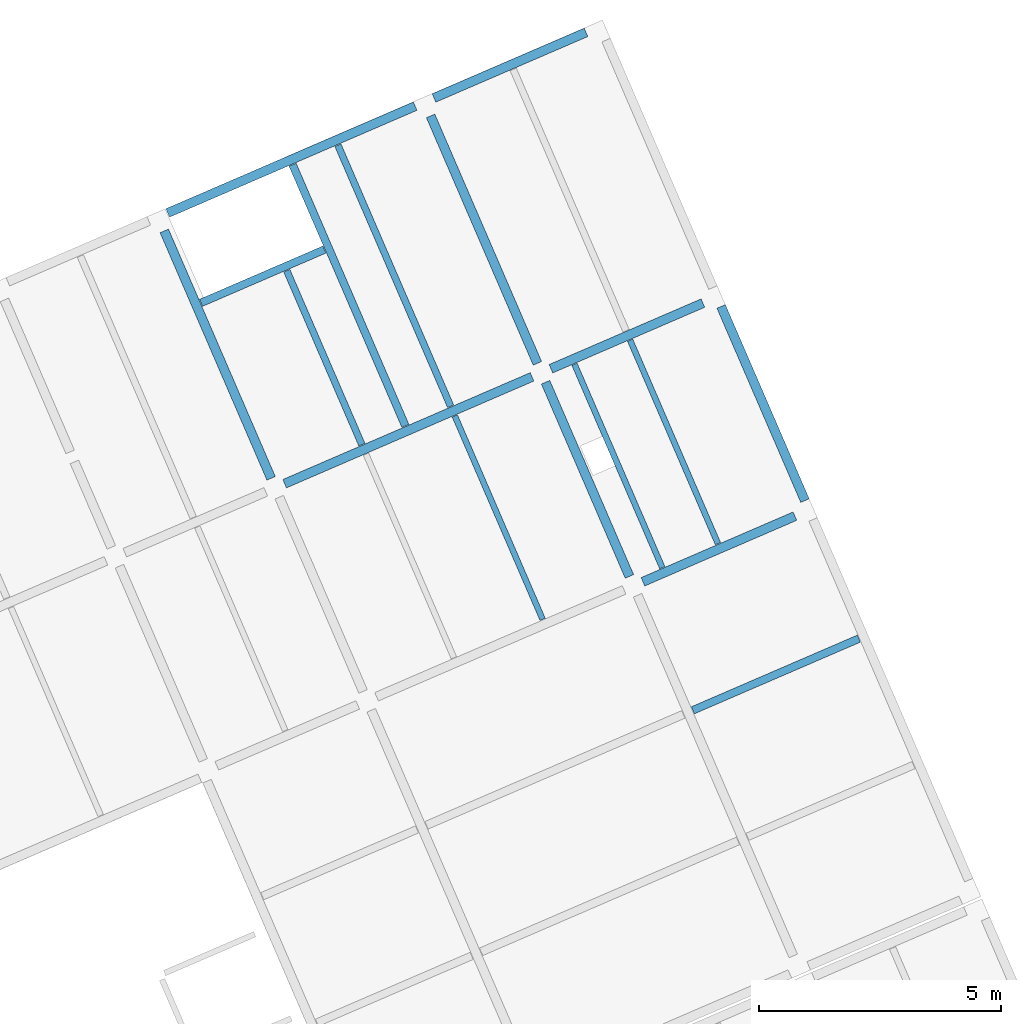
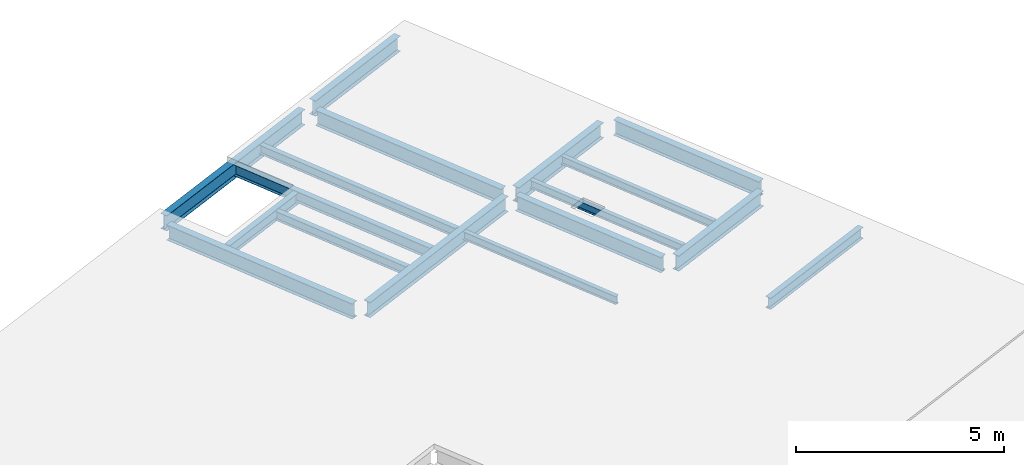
# One storey, part 14 of 15: 17 beams.
"""IFC4 building model written with IfcOpenShell, lengths in metres."""

from ifc_helpers import new_model, entity, si_unit, converted_unit, derived_unit, direction, frame, origin, place, context, subcontext, project, spatial, line, arc, indexed_curve, outline, extrude, source, transform, mapped, material, type_object, type_shapes, element, save


model = new_model("IFC4")

# Units and contexts
model_context = context("Model", 3, precision=1e-05, world=origin(), true_north=direction((6.12323399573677e-17, 1.0)))
body_context = subcontext(model_context, "Body", "Model", "MODEL_VIEW")
ifc_project = project(units=[si_unit("LENGTHUNIT", "METRE"), si_unit("AREAUNIT", "SQUARE_METRE"), si_unit("VOLUMEUNIT", "CUBIC_METRE"), converted_unit("PLANEANGLEUNIT", "DEGREE", entity("IfcPlaneAngleMeasure", 0.0174532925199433), si_unit("PLANEANGLEUNIT", "RADIAN"), dimensions=[0, 0, 0, 0, 0, 0, 0]), si_unit("MASSUNIT", "GRAM", prefix="KILO"), derived_unit("MOMENTOFINERTIAUNIT", [(si_unit("LENGTHUNIT", "METRE"), 4)]), derived_unit("LINEARFORCEUNIT", [(si_unit("MASSUNIT", "GRAM", prefix="KILO"), 1), (si_unit("TIMEUNIT", "SECOND"), -2)]), derived_unit("WARPINGCONSTANTUNIT", [(si_unit("LENGTHUNIT", "METRE"), 6)]), derived_unit("THERMALTRANSMITTANCEUNIT", [(si_unit("MASSUNIT", "GRAM", prefix="KILO"), 1), (si_unit("THERMODYNAMICTEMPERATUREUNIT", "KELVIN"), -1), (si_unit("TIMEUNIT", "SECOND"), -3)]), derived_unit("USERDEFINED", [(si_unit("MASSUNIT", "GRAM", prefix="KILO"), 1), (si_unit("TIMEUNIT", "SECOND"), -2), (si_unit("THERMODYNAMICTEMPERATUREUNIT", "KELVIN"), -1)]), derived_unit("THERMALRESISTANCEUNIT", [(si_unit("MASSUNIT", "GRAM", prefix="KILO"), -1), (si_unit("TIMEUNIT", "SECOND"), 3), (si_unit("THERMODYNAMICTEMPERATUREUNIT", "KELVIN"), 1)])], contexts=[model_context])

# Site, building, storey
site_placement = place(None, origin())
site = spatial("IfcSite", under=ifc_project, at=site_placement, Name="Default", CompositionType="ELEMENT")
building_placement = place(site_placement, frame((12.6613425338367, -82.5732315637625, 317.15), z_axis=(0.0, 0.0, 1.0), x_axis=(-0.396377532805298, 0.918087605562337, 0.0)))
building = spatial("IfcBuilding", under=site, at=building_placement, Name="CESFAM Coyhaique", CompositionType="ELEMENT")
storey_placement = place(building_placement, frame((0.0, 0.0, 8.45000000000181)))
storey = spatial("IfcBuildingStorey", under=building, at=storey_placement, Name="Nivel 3", CompositionType="ELEMENT", Elevation=8.45000000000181)

# Beams
ifc_material = material(Name="Steel, 45-345", Category="Metal")
beam_type_1 = type_object("IfcBeamType", Name="M_W Shapes:W450X190mm", PredefinedType="BEAM", material=ifc_material)
shared_shape_1 = source(origin(), body_context, "Body", "SweptSolid", [
    extrude(outline(indexed_curve([(-0.0949999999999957, -0.225000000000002), (0.0950000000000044, -0.225000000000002), (0.0950000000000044, -0.215350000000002), (0.0105700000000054, -0.215350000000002), (0.00516063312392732, -0.213109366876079), (0.00292000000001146, -0.207700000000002), (0.0029200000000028, 0.207699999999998), (0.00516063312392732, 0.213109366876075), (0.0105700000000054, 0.215349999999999), (0.0950000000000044, 0.215349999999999), (0.0950000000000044, 0.224999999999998), (-0.0949999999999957, 0.224999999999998), (-0.0949999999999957, 0.215349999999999), (-0.0105699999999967, 0.215349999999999), (-0.00516063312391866, 0.213109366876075), (-0.00291999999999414, 0.207699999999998), (-0.00291999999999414, -0.207700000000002), (-0.00516063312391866, -0.213109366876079), (-0.0105699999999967, -0.215350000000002), (-0.0949999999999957, -0.215350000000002)], segments=[line(1, 2, 3, 4), arc(4, 5, 6), line(6, 7), arc(7, 8, 9), line(9, 10, 11, 12, 13, 14), arc(14, 15, 16), line(16, 17), arc(17, 18, 19), line(19, 20, 1)], self_intersect=False)), frame((48.5688534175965, -20.9844495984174, 8.07500000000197), z_axis=(0.0, 1.0, 0.0), x_axis=(-1.0, 0.0, 0.0)), (0.0, 0.0, 1.0), 5.5746),
])
type_shapes(beam_type_1, [shared_shape_1])
beam_1_placement = place(storey_placement, frame((0.0, 0.0, -8.45000000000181)))
element("IfcBeam", 1, at=beam_1_placement, inside=storey, type_object=beam_type_1, Name="M_W Shapes:W450X190mm", ObjectType="M_W Shapes:W450X190mm", PredefinedType="BEAM", context=body_context, shape_type="MappedRepresentation", body=[
    mapped(shared_shape_1, transform((0.0, 0.0, 0.0), scale=1.0)),
])
beam_type_2 = type_object("IfcBeamType", Name="M_W Shapes:W450X190mm", PredefinedType="BEAM", material=ifc_material)
shared_shape_2 = source(origin(), body_context, "Body", "SweptSolid", [
    extrude(outline(indexed_curve([(-0.0950000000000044, -0.225000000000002), (0.0949999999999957, -0.225000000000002), (0.0949999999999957, -0.215350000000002), (0.0105699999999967, -0.215350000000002), (0.00516063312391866, -0.213109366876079), (0.0029200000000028, -0.207700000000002), (0.00291999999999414, 0.207699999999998), (0.00516063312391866, 0.213109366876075), (0.0105699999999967, 0.215349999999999), (0.0949999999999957, 0.215349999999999), (0.0949999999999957, 0.224999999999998), (-0.0950000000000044, 0.224999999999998), (-0.0950000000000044, 0.215349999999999), (-0.0105700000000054, 0.215349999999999), (-0.00516063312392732, 0.213109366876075), (-0.0029200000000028, 0.207699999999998), (-0.0029200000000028, -0.207700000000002), (-0.00516063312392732, -0.213109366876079), (-0.0105700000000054, -0.215350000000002), (-0.0950000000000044, -0.215350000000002)], segments=[line(1, 2, 3, 4), arc(4, 5, 6), line(6, 7), arc(7, 8, 9), line(9, 10, 11, 12, 13, 14), arc(14, 15, 16), line(16, 17), arc(17, 18, 19), line(19, 20, 1)], self_intersect=False)), frame((54.6688534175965, -20.9844495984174, 8.07500000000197), z_axis=(0.0, 1.0, 0.0), x_axis=(-1.0, 0.0, 0.0)), (0.0, 0.0, 1.0), 5.5746),
])
type_shapes(beam_type_2, [shared_shape_2])
beam_2_placement = place(storey_placement, frame((0.0, 0.0, -8.45000000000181)))
element("IfcBeam", 2, at=beam_2_placement, inside=storey, type_object=beam_type_2, Name="M_W Shapes:W450X190mm", ObjectType="M_W Shapes:W450X190mm", PredefinedType="BEAM", context=body_context, shape_type="MappedRepresentation", body=[
    mapped(shared_shape_2, transform((0.0, 0.0, 0.0), scale=1.0)),
])
beam_type_3 = type_object("IfcBeamType", Name="M_W Shapes:W450X190mm", PredefinedType="BEAM", material=ifc_material)
shared_shape_3 = source(origin(), body_context, "Body", "SweptSolid", [
    extrude(outline(indexed_curve([(-0.224999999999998, -0.0949999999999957), (-0.215349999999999, -0.0949999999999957), (-0.215349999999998, -0.0105699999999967), (-0.213109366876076, -0.00516063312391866), (-0.207699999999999, -0.00291999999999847), (0.207700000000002, -0.00291999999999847), (0.21310936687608, -0.00516063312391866), (0.215350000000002, -0.0105699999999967), (0.215350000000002, -0.0949999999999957), (0.225000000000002, -0.0949999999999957), (0.225000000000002, 0.0950000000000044), (0.215350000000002, 0.0950000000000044), (0.215350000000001, 0.0105700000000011), (0.21310936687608, 0.00516063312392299), (0.207700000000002, 0.0029200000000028), (-0.207699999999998, 0.0029200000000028), (-0.213109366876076, 0.00516063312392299), (-0.215349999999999, 0.0105700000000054), (-0.215349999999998, 0.0950000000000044), (-0.224999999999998, 0.0950000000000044)], segments=[line(1, 2, 3), arc(3, 4, 5), line(5, 6), arc(6, 7, 8), line(8, 9, 10, 11, 12, 13), arc(13, 14, 15), line(15, 16), arc(16, 17, 18), line(18, 19, 20, 1)], self_intersect=False)), frame((43.9815534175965, -25.1521495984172, 8.07500000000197), z_axis=(1.0, 0.0, 0.0), x_axis=(0.0, 0.0, -1.0)), (0.0, 0.0, 1.0), 4.3746),
])
type_shapes(beam_type_3, [shared_shape_3])
beam_3_placement = place(storey_placement, frame((0.0, 0.0, -8.45000000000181)))
element("IfcBeam", 3, at=beam_3_placement, inside=storey, type_object=beam_type_3, Name="M_W Shapes:W450X190mm", ObjectType="M_W Shapes:W450X190mm", PredefinedType="BEAM", context=body_context, shape_type="MappedRepresentation", body=[
    mapped(shared_shape_3, transform((0.0, 0.0, 0.0), scale=1.0)),
])
beam_type_4 = type_object("IfcBeamType", Name="M_W Shapes:W450X190mm", PredefinedType="BEAM", material=ifc_material)
shared_shape_4 = source(origin(), body_context, "Body", "SweptSolid", [
    extrude(outline(indexed_curve([(-0.224999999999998, -0.0950000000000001), (-0.215349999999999, -0.0950000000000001), (-0.215349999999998, -0.0105700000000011), (-0.213109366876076, -0.00516063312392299), (-0.207699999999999, -0.0029200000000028), (0.207700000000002, -0.0029200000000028), (0.21310936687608, -0.00516063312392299), (0.215350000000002, -0.0105700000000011), (0.215350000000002, -0.0950000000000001), (0.225000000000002, -0.0950000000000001), (0.225000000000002, 0.0950000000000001), (0.215350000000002, 0.0950000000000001), (0.215350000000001, 0.0105699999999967), (0.21310936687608, 0.00516063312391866), (0.207700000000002, 0.00291999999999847), (-0.207699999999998, 0.00291999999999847), (-0.213109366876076, 0.00516063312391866), (-0.215349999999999, 0.0105700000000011), (-0.215349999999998, 0.0950000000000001), (-0.224999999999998, 0.0950000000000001)], segments=[line(1, 2, 3), arc(3, 4, 5), line(5, 6), arc(6, 7, 8), line(8, 9, 10, 11, 12, 13), arc(13, 14, 15), line(15, 16), arc(16, 17, 18), line(18, 19, 20, 1)], self_intersect=False)), frame((43.9815534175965, -21.1971495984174, 8.07500000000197), z_axis=(1.0, 0.0, 0.0), x_axis=(0.0, 0.0, -1.0)), (0.0, 0.0, 1.0), 4.3746),
])
type_shapes(beam_type_4, [shared_shape_4])
beam_4_placement = place(storey_placement, frame((0.0, 0.0, -8.45000000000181)))
element("IfcBeam", 4, at=beam_4_placement, inside=storey, type_object=beam_type_4, Name="M_W Shapes:W450X190mm", ObjectType="M_W Shapes:W450X190mm", PredefinedType="BEAM", context=body_context, shape_type="MappedRepresentation", body=[
    mapped(shared_shape_4, transform((0.0, 0.0, 0.0), scale=1.0)),
])
beam_type_5 = type_object("IfcBeamType", Name="M_W Shapes:W450X190mm", PredefinedType="BEAM", material=ifc_material)
shared_shape_5 = source(origin(), body_context, "Body", "SweptSolid", [
    extrude(outline(indexed_curve([(-0.224999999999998, -0.0950000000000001), (-0.215349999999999, -0.0950000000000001), (-0.215349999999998, -0.0105700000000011), (-0.213109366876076, -0.00516063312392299), (-0.207699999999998, -0.0029200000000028), (0.207700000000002, -0.0029200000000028), (0.21310936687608, -0.00516063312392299), (0.215350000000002, -0.0105700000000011), (0.215350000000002, -0.0950000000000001), (0.225000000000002, -0.0950000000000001), (0.225000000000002, 0.0950000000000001), (0.215350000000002, 0.0950000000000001), (0.215350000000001, 0.0105699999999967), (0.21310936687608, 0.00516063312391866), (0.207700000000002, 0.00291999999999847), (-0.207699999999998, 0.00291999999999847), (-0.213109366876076, 0.00516063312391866), (-0.215349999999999, 0.0105699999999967), (-0.215349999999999, 0.0950000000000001), (-0.224999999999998, 0.0950000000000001)], segments=[line(1, 2, 3), arc(3, 4, 5), line(5, 6), arc(6, 7, 8), line(8, 9, 10, 11, 12, 13), arc(13, 14, 15), line(15, 16), arc(16, 17, 18), line(18, 19, 20, 1)], self_intersect=False)), frame((48.7815534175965, -21.1971495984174, 8.07500000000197), z_axis=(1.0, 0.0, 0.0), x_axis=(0.0, 0.0, -1.0)), (0.0, 0.0, 1.0), 5.5746),
])
type_shapes(beam_type_5, [shared_shape_5])
beam_5_placement = place(storey_placement, frame((0.0, 0.0, -8.45000000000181)))
element("IfcBeam", 5, at=beam_5_placement, inside=storey, type_object=beam_type_5, Name="M_W Shapes:W450X190mm", ObjectType="M_W Shapes:W450X190mm", PredefinedType="BEAM", context=body_context, shape_type="MappedRepresentation", body=[
    mapped(shared_shape_5, transform((0.0, 0.0, 0.0), scale=1.0)),
])
beam_type_6 = type_object("IfcBeamType", Name="M_W Shapes:W450X190mm", PredefinedType="BEAM", material=ifc_material)
shared_shape_6 = source(origin(), body_context, "Body", "SweptSolid", [
    extrude(outline(indexed_curve([(-0.224999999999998, -0.0950000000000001), (-0.215349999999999, -0.0950000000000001), (-0.215349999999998, -0.0105699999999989), (-0.213109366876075, -0.00516063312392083), (-0.207699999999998, -0.00291999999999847), (0.207700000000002, -0.00291999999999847), (0.213109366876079, -0.00516063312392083), (0.215350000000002, -0.0105699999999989), (0.215350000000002, -0.0950000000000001), (0.225000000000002, -0.0950000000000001), (0.225000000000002, 0.0950000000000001), (0.215350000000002, 0.0950000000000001), (0.215350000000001, 0.0105700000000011), (0.213109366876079, 0.00516063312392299), (0.207700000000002, 0.00292000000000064), (-0.207699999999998, 0.00292000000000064), (-0.213109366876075, 0.00516063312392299), (-0.215349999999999, 0.0105700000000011), (-0.215349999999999, 0.0950000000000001), (-0.224999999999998, 0.0950000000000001)], segments=[line(1, 2, 3), arc(3, 4, 5), line(5, 6), arc(6, 7, 8), line(8, 9, 10, 11, 12, 13), arc(13, 14, 15), line(15, 16), arc(16, 17, 18), line(18, 19, 20, 1)], self_intersect=False)), frame((48.7815534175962, -15.1971495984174, 8.07500000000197), z_axis=(1.0, 0.0, 0.0), x_axis=(0.0, 0.0, -1.0)), (0.0, 0.0, 1.0), 5.5746),
])
type_shapes(beam_type_6, [shared_shape_6])
beam_6_placement = place(storey_placement, frame((0.0, 0.0, -8.45000000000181)))
element("IfcBeam", 6, at=beam_6_placement, inside=storey, type_object=beam_type_6, Name="M_W Shapes:W450X190mm", ObjectType="M_W Shapes:W450X190mm", PredefinedType="BEAM", context=body_context, shape_type="MappedRepresentation", body=[
    mapped(shared_shape_6, transform((0.0, 0.0, 0.0), scale=1.0)),
])
beam_type_7 = type_object("IfcBeamType", Name="M_W Shapes:W450X190mm", PredefinedType="BEAM", material=ifc_material)
shared_shape_7 = source(origin(), body_context, "Body", "SweptSolid", [
    extrude(outline(indexed_curve([(-0.0949999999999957, -0.225000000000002), (0.0950000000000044, -0.225000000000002), (0.0950000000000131, -0.215350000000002), (0.0105700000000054, -0.215350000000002), (0.00516063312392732, -0.213109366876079), (0.00292000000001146, -0.207700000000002), (0.0029200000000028, 0.207699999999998), (0.00516063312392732, 0.213109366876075), (0.0105700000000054, 0.215349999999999), (0.0950000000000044, 0.215349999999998), (0.0950000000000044, 0.224999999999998), (-0.0949999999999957, 0.224999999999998), (-0.0949999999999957, 0.215349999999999), (-0.0105699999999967, 0.215349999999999), (-0.00516063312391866, 0.213109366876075), (-0.00291999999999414, 0.207699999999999), (-0.00291999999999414, -0.207700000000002), (-0.00516063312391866, -0.213109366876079), (-0.0105699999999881, -0.215350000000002), (-0.0949999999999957, -0.215350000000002)], segments=[line(1, 2, 3, 4), arc(4, 5, 6), line(6, 7), arc(7, 8, 9), line(9, 10, 11, 12, 13, 14), arc(14, 15, 16), line(16, 17), arc(17, 18, 19), line(19, 20, 1)], self_intersect=False)), frame((43.7688534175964, -24.8344495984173, 8.07500000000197), z_axis=(0.0, 1.0, 0.0), x_axis=(-1.0, 0.0, 0.0)), (0.0, 0.0, 1.0), 3.4246),
])
type_shapes(beam_type_7, [shared_shape_7])
beam_7_placement = place(storey_placement, frame((0.0, 0.0, -8.45000000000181)))
element("IfcBeam", 7, at=beam_7_placement, inside=storey, type_object=beam_type_7, Name="M_W Shapes:W450X190mm", ObjectType="M_W Shapes:W450X190mm", PredefinedType="BEAM", context=body_context, shape_type="MappedRepresentation", body=[
    mapped(shared_shape_7, transform((0.0, 0.0, 0.0), scale=1.0)),
])
beam_type_8 = type_object("IfcBeamType", Name="M_W Shapes:W450X190mm", PredefinedType="BEAM", material=ifc_material)
shared_shape_8 = source(origin(), body_context, "Body", "SweptSolid", [
    extrude(outline(indexed_curve([(-0.0949999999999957, -0.225000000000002), (0.0950000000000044, -0.225000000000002), (0.0950000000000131, -0.215350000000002), (0.0105700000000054, -0.215350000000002), (0.00516063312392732, -0.213109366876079), (0.00292000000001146, -0.207700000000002), (0.0029200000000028, 0.207699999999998), (0.00516063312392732, 0.213109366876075), (0.0105700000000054, 0.215349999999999), (0.0950000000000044, 0.215349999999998), (0.0950000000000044, 0.224999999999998), (-0.0949999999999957, 0.224999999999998), (-0.0949999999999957, 0.215349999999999), (-0.0105699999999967, 0.215349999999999), (-0.00516063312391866, 0.213109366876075), (-0.00291999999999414, 0.207699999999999), (-0.00291999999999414, -0.207700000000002), (-0.00516063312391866, -0.213109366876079), (-0.0105699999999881, -0.215350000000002), (-0.0949999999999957, -0.215350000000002)], segments=[line(1, 2, 3, 4), arc(4, 5, 6), line(6, 7), arc(7, 8, 9), line(9, 10, 11, 12, 13, 14), arc(14, 15, 16), line(16, 17), arc(17, 18, 19), line(19, 20, 1)], self_intersect=False)), frame((48.5688534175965, -24.8344495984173, 8.07500000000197), z_axis=(0.0, 1.0, 0.0), x_axis=(-1.0, 0.0, 0.0)), (0.0, 0.0, 1.0), 3.4246),
])
type_shapes(beam_type_8, [shared_shape_8])
beam_8_placement = place(storey_placement, frame((0.0, 0.0, -8.45000000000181)))
element("IfcBeam", 8, at=beam_8_placement, inside=storey, type_object=beam_type_8, Name="M_W Shapes:W450X190mm", ObjectType="M_W Shapes:W450X190mm", PredefinedType="BEAM", context=body_context, shape_type="MappedRepresentation", body=[
    mapped(shared_shape_8, transform((0.0, 0.0, 0.0), scale=1.0)),
])
beam_type_9 = type_object("IfcBeamType", Name="M_W Shapes:W450X190mm", PredefinedType="BEAM", material=ifc_material)
shared_shape_9 = source(origin(), body_context, "Body", "SweptSolid", [
    extrude(outline(indexed_curve([(-0.0950000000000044, -0.225000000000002), (0.0949999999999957, -0.225000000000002), (0.0950000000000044, -0.215350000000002), (0.0105699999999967, -0.215350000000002), (0.00516063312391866, -0.213109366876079), (0.0029200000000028, -0.207700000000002), (0.00291999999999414, 0.207699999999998), (0.00516063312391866, 0.213109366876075), (0.0105699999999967, 0.215349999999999), (0.0949999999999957, 0.215349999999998), (0.0949999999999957, 0.224999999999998), (-0.0950000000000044, 0.224999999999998), (-0.0950000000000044, 0.215349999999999), (-0.0105700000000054, 0.215349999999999), (-0.00516063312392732, 0.213109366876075), (-0.0029200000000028, 0.207699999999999), (-0.0029200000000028, -0.207700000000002), (-0.00516063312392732, -0.213109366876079), (-0.0105699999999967, -0.215350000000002), (-0.0950000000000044, -0.215350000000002)], segments=[line(1, 2, 3, 4), arc(4, 5, 6), line(6, 7), arc(7, 8, 9), line(9, 10, 11, 12, 13, 14), arc(14, 15, 16), line(16, 17), arc(17, 18, 19), line(19, 20, 1)], self_intersect=False)), frame((54.6688534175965, -24.8344495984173, 8.07500000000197), z_axis=(0.0, 1.0, 0.0), x_axis=(-1.0, 0.0, 0.0)), (0.0, 0.0, 1.0), 3.4246),
])
type_shapes(beam_type_9, [shared_shape_9])
beam_9_placement = place(storey_placement, frame((0.0, 0.0, -8.45000000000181)))
element("IfcBeam", 9, at=beam_9_placement, inside=storey, type_object=beam_type_9, Name="M_W Shapes:W450X190mm", ObjectType="M_W Shapes:W450X190mm", PredefinedType="BEAM", context=body_context, shape_type="MappedRepresentation", body=[
    mapped(shared_shape_9, transform((0.0, 0.0, 0.0), scale=1.0)),
])
beam_type_10 = type_object("IfcBeamType", Name="M_W Shapes:W330X160mm", PredefinedType="BEAM", material=ifc_material)
shared_shape_10 = source(origin(), body_context, "Body", "SweptSolid", [
    extrude(outline(indexed_curve([(-0.0800000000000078, -0.165), (0.0799999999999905, -0.164999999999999), (0.0799999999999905, -0.155349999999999), (0.0105699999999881, -0.155349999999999), (0.00516063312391, -0.153109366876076), (0.00291999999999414, -0.147699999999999), (0.00291999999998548, 0.147700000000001), (0.00516063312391, 0.153109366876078), (0.0105699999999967, 0.15535), (0.0799999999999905, 0.15535), (0.0799999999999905, 0.165), (-0.0800000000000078, 0.165), (-0.0800000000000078, 0.15535), (-0.0105700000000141, 0.155350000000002), (-0.00516063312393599, 0.153109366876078), (-0.00292000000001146, 0.147700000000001), (-0.00292000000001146, -0.147699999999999), (-0.00516063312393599, -0.153109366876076), (-0.0105700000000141, -0.155349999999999), (-0.0800000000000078, -0.155349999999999)], segments=[line(1, 2, 3, 4), arc(4, 5, 6), line(6, 7), arc(7, 8, 9), line(9, 10, 11, 12, 13, 14), arc(14, 15, 16), line(16, 17), arc(17, 18, 19), line(19, 20, 1)], self_intersect=False)), frame((40.9187774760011, -25.0444495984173, 8.13500000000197), z_axis=(0.0, 1.0, 0.0), x_axis=(-1.0, 0.0, 0.0)), (0.0, 0.0, 1.0), 3.7396),
])
type_shapes(beam_type_10, [shared_shape_10])
beam_10_placement = place(storey_placement, frame((0.0, 0.0, -8.45000000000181)))
element("IfcBeam", 10, at=beam_10_placement, inside=storey, type_object=beam_type_10, Name="M_W Shapes:W330X160mm", ObjectType="M_W Shapes:W330X160mm", PredefinedType="BEAM", context=body_context, shape_type="MappedRepresentation", body=[
    mapped(shared_shape_10, transform((0.0, 0.0, 0.0), scale=1.0)),
])
beam_type_11 = type_object("IfcBeamType", Name="M_W Shapes:W240X120mm", PredefinedType="BEAM", material=ifc_material)
shared_shape_11 = source(origin(), body_context, "Body", "SweptSolid", [
    extrude(outline(indexed_curve([(-0.119999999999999, -0.0600000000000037), (-0.11035, -0.0600000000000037), (-0.110349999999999, -0.0105700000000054), (-0.108109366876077, -0.00516063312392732), (-0.102699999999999, -0.00292000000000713), (0.1027, -0.00292000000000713), (0.108109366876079, -0.00516063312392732), (0.11035, -0.0105700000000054), (0.110350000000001, -0.0600000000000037), (0.120000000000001, -0.0600000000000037), (0.120000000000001, 0.059999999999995), (0.11035, 0.059999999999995), (0.11035, 0.0105699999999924), (0.108109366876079, 0.00516063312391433), (0.102699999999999, 0.00291999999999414), (-0.102699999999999, 0.00291999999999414), (-0.108109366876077, 0.00516063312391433), (-0.11035, 0.0105699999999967), (-0.110349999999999, 0.059999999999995), (-0.119999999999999, 0.059999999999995)], segments=[line(1, 2, 3), arc(3, 4, 5), line(5, 6), arc(6, 7, 8), line(8, 9, 10, 11, 12, 13), arc(13, 14, 15), line(15, 16), arc(16, 17, 18), line(18, 19, 20, 1)], self_intersect=False)), frame((43.8765534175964, -21.8936294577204, 8.18000000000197), z_axis=(1.0, 0.0, 0.0), x_axis=(0.0, 0.0, -1.0)), (0.0, 0.0, 1.0), 4.5846),
])
type_shapes(beam_type_11, [shared_shape_11])
beam_11_placement = place(storey_placement, frame((0.0, 0.0, -8.45000000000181)))
element("IfcBeam", 11, at=beam_11_placement, inside=storey, type_object=beam_type_11, Name="M_W Shapes:W240X120mm", ObjectType="M_W Shapes:W240X120mm", PredefinedType="BEAM", context=body_context, shape_type="MappedRepresentation", body=[
    mapped(shared_shape_11, transform((0.0, 0.0, 0.0), scale=1.0)),
])
beam_type_12 = type_object("IfcBeamType", Name="M_W Shapes:W240X120mm", PredefinedType="BEAM", material=ifc_material)
shared_shape_12 = source(origin(), body_context, "Body", "SweptSolid", [
    extrude(outline(indexed_curve([(-0.119999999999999, -0.0600000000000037), (-0.11035, -0.0600000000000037), (-0.110349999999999, -0.0105700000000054), (-0.108109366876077, -0.00516063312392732), (-0.102699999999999, -0.00292000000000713), (0.1027, -0.00292000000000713), (0.108109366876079, -0.00516063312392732), (0.11035, -0.0105700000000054), (0.110350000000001, -0.0600000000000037), (0.120000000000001, -0.0600000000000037), (0.120000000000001, 0.059999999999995), (0.11035, 0.059999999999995), (0.11035, 0.0105699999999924), (0.108109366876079, 0.00516063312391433), (0.102699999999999, 0.00291999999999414), (-0.102699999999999, 0.00291999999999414), (-0.108109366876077, 0.00516063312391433), (-0.11035, 0.0105699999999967), (-0.110349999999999, 0.059999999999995), (-0.119999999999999, 0.059999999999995)], segments=[line(1, 2, 3), arc(3, 4, 5), line(5, 6), arc(6, 7, 8), line(8, 9, 10, 11, 12, 13), arc(13, 14, 15), line(15, 16), arc(16, 17, 18), line(18, 19, 20, 1)], self_intersect=False)), frame((43.8765534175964, -23.1471495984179, 8.18000000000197), z_axis=(1.0, 0.0, 0.0), x_axis=(0.0, 0.0, -1.0)), (0.0, 0.0, 1.0), 4.5846),
])
type_shapes(beam_type_12, [shared_shape_12])
beam_12_placement = place(storey_placement, frame((0.0, 0.0, -8.45000000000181)))
element("IfcBeam", 12, at=beam_12_placement, inside=storey, type_object=beam_type_12, Name="M_W Shapes:W240X120mm", ObjectType="M_W Shapes:W240X120mm", PredefinedType="BEAM", context=body_context, shape_type="MappedRepresentation", body=[
    mapped(shared_shape_12, transform((0.0, 0.0, 0.0), scale=1.0)),
])
beam_type_13 = type_object("IfcBeamType", Name="M_W Shapes:W240X120mm", PredefinedType="BEAM", material=ifc_material)
shared_shape_13 = source(origin(), body_context, "Body", "SweptSolid", [
    extrude(outline(indexed_curve([(-0.119999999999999, -0.0600000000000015), (-0.11035, -0.0600000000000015), (-0.110349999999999, -0.0105700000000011), (-0.108109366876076, -0.00516063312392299), (-0.102699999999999, -0.00292000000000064), (0.1027, -0.00292000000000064), (0.108109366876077, -0.00516063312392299), (0.11035, -0.0105700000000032), (0.110350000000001, -0.0600000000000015), (0.120000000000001, -0.0600000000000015), (0.120000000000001, 0.0599999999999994), (0.11035, 0.0599999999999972), (0.11035, 0.0105699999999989), (0.108109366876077, 0.00516063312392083), (0.102699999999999, 0.00291999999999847), (-0.102699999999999, 0.00291999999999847), (-0.108109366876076, 0.00516063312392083), (-0.11035, 0.0105699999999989), (-0.110349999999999, 0.0599999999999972), (-0.119999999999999, 0.0599999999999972)], segments=[line(1, 2, 3), arc(3, 4, 5), line(5, 6), arc(6, 7, 8), line(8, 9, 10, 11, 12, 13), arc(13, 14, 15), line(15, 16), arc(16, 17, 18), line(18, 19, 20, 1)], self_intersect=False)), frame((43.8765534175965, -19.1972701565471, 8.18000000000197), z_axis=(1.0, 0.0, 0.0), x_axis=(0.0, 0.0, -1.0)), (0.0, 0.0, 1.0), 4.5846),
])
type_shapes(beam_type_13, [shared_shape_13])
beam_13_placement = place(storey_placement, frame((0.0, 0.0, -8.45000000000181)))
element("IfcBeam", 13, at=beam_13_placement, inside=storey, type_object=beam_type_13, Name="M_W Shapes:W240X120mm", ObjectType="M_W Shapes:W240X120mm", PredefinedType="BEAM", context=body_context, shape_type="MappedRepresentation", body=[
    mapped(shared_shape_13, transform((0.0, 0.0, 0.0), scale=1.0)),
])
beam_type_14 = type_object("IfcBeamType", Name="M_W Shapes:W270X140mm", PredefinedType="BEAM", material=ifc_material)
shared_shape_14 = source(origin(), body_context, "Body", "SweptSolid", [
    extrude(outline(indexed_curve([(-0.135, -0.0700000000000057), (-0.125350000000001, -0.0700000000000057), (-0.12535, -0.0105700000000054), (-0.123109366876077, -0.00516063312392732), (-0.1177, -0.00292000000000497), (0.117699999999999, -0.00292000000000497), (0.123109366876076, -0.00516063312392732), (0.12535, -0.0105700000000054), (0.12535, -0.0700000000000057), (0.135, -0.0700000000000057), (0.135, 0.0699999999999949), (0.12535, 0.0699999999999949), (0.125349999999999, 0.0105699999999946), (0.123109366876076, 0.00516063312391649), (0.117699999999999, 0.00291999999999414), (-0.1177, 0.00291999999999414), (-0.123109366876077, 0.00516063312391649), (-0.125350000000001, 0.0105699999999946), (-0.125350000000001, 0.0699999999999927), (-0.135, 0.0699999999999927)], segments=[line(1, 2, 3), arc(3, 4, 5), line(5, 6), arc(6, 7, 8), line(8, 9, 10, 11, 12, 13), arc(13, 14, 15), line(15, 16), arc(16, 17, 18), line(18, 19, 20, 1)], self_intersect=False)), frame((48.6765534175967, -19.1972701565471, 8.16500000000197), z_axis=(1.0, 0.0, 0.0), x_axis=(0.0, 0.0, -1.0)), (0.0, 0.0, 1.0), 5.88460000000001),
])
type_shapes(beam_type_14, [shared_shape_14])
beam_14_placement = place(storey_placement, frame((0.0, 0.0, -8.45000000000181)))
element("IfcBeam", 14, at=beam_14_placement, inside=storey, type_object=beam_type_14, Name="M_W Shapes:W270X140mm", ObjectType="M_W Shapes:W270X140mm", PredefinedType="BEAM", context=body_context, shape_type="MappedRepresentation", body=[
    mapped(shared_shape_14, transform((0.0, 0.0, 0.0), scale=1.0)),
])
beam_type_15 = type_object("IfcBeamType", Name="M_W Shapes:W330X160mm", PredefinedType="BEAM", material=ifc_material)
shared_shape_15 = source(origin(), body_context, "Body", "SweptSolid", [
    extrude(outline(indexed_curve([(-0.164999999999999, -0.0800000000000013), (-0.155349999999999, -0.0800000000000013), (-0.155349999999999, -0.0105700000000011), (-0.153109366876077, -0.00516063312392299), (-0.1477, -0.00292000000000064), (0.1477, -0.00292000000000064), (0.153109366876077, -0.00516063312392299), (0.15535, -0.0105700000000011), (0.15535, -0.0800000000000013), (0.165000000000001, -0.0800000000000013), (0.165000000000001, 0.0799999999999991), (0.15535, 0.0799999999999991), (0.155349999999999, 0.0105699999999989), (0.153109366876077, 0.00516063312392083), (0.1477, 0.00291999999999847), (-0.1477, 0.00291999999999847), (-0.153109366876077, 0.00516063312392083), (-0.155349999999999, 0.0105699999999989), (-0.155349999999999, 0.0799999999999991), (-0.164999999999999, 0.0799999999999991)], segments=[line(1, 2, 3), arc(3, 4, 5), line(5, 6), arc(6, 7, 8), line(8, 9, 10, 11, 12, 13), arc(13, 14, 15), line(15, 16), arc(16, 17, 18), line(18, 19, 20, 1)], self_intersect=False)), frame((48.6765534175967, -18.177149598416, 8.13500000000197), z_axis=(1.0, 0.0, 0.0), x_axis=(0.0, 0.0, -1.0)), (0.0, 0.0, 1.0), 5.88460000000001),
])
type_shapes(beam_type_15, [shared_shape_15])
beam_15_placement = place(storey_placement, frame((0.0, 0.0, -8.45000000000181)))
element("IfcBeam", 15, at=beam_15_placement, inside=storey, type_object=beam_type_15, Name="M_W Shapes:W330X160mm", ObjectType="M_W Shapes:W330X160mm", PredefinedType="BEAM", context=body_context, shape_type="MappedRepresentation", body=[
    mapped(shared_shape_15, transform((0.0, 0.0, 0.0), scale=1.0)),
])
beam_type_16 = type_object("IfcBeamType", Name="M_W Shapes:W270X140mm", PredefinedType="BEAM", material=ifc_material)
shared_shape_16 = source(origin(), body_context, "Body", "SweptSolid", [
    extrude(outline(indexed_curve([(-0.135, -0.0700000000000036), (-0.125350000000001, -0.0700000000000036), (-0.12535, -0.0105700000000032), (-0.123109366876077, -0.00516063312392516), (-0.1177, -0.0029200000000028), (0.117699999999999, -0.0029200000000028), (0.123109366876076, -0.00516063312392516), (0.12535, -0.0105700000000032), (0.12535, -0.0700000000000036), (0.135, -0.0700000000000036), (0.135, 0.0699999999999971), (0.12535, 0.0699999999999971), (0.125349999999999, 0.0105699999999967), (0.123109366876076, 0.00516063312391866), (0.117699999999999, 0.0029199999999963), (-0.1177, 0.0029199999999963), (-0.123109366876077, 0.00516063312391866), (-0.125350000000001, 0.0105699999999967), (-0.125350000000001, 0.0699999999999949), (-0.135, 0.0699999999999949)], segments=[line(1, 2, 3), arc(3, 4, 5), line(5, 6), arc(6, 7, 8), line(8, 9, 10, 11, 12, 13), arc(13, 14, 15), line(15, 16), arc(16, 17, 18), line(18, 19, 20, 1)], self_intersect=False)), frame((48.6765534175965, -17.1972701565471, 8.16500000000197), z_axis=(1.0, 0.0, 0.0), x_axis=(0.0, 0.0, -1.0)), (0.0, 0.0, 1.0), 3.9196),
])
type_shapes(beam_type_16, [shared_shape_16])
beam_16_placement = place(storey_placement, frame((0.0, 0.0, -8.45000000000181)))
element("IfcBeam", 16, at=beam_16_placement, inside=storey, type_object=beam_type_16, Name="M_W Shapes:W270X140mm", ObjectType="M_W Shapes:W270X140mm", PredefinedType="BEAM", context=body_context, shape_type="MappedRepresentation", body=[
    mapped(shared_shape_16, transform((0.0, 0.0, 0.0), scale=1.0)),
])
beam_type_17 = type_object("IfcBeamType", Name="M_W Shapes:W330X160mm", PredefinedType="BEAM", material=ifc_material)
shared_shape_17 = source(origin(), body_context, "Body", "SweptSolid", [
    extrude(outline(indexed_curve([(-0.0799999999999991, -0.165), (0.0799999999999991, -0.164999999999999), (0.0799999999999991, -0.155349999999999), (0.0105699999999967, -0.155349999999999), (0.00516063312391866, -0.153109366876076), (0.0029200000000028, -0.147699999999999), (0.00291999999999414, 0.147700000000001), (0.00516063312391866, 0.153109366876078), (0.0105700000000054, 0.15535), (0.0799999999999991, 0.15535), (0.0799999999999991, 0.165), (-0.0799999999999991, 0.165), (-0.0799999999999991, 0.15535), (-0.0105700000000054, 0.155350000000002), (-0.00516063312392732, 0.153109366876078), (-0.0029200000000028, 0.147700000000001), (-0.0029200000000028, -0.147699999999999), (-0.00516063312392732, -0.153109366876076), (-0.0105700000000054, -0.155349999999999), (-0.0799999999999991, -0.155349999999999)], segments=[line(1, 2, 3, 4), arc(4, 5, 6), line(6, 7), arc(7, 8, 9), line(9, 10, 11, 12, 13, 14), arc(14, 15, 16), line(16, 17), arc(17, 18, 19), line(19, 20, 1)], self_intersect=False)), frame((52.6888534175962, -18.0844495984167, 8.13500000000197), z_axis=(0.0, 1.0, 0.0), x_axis=(-1.0, 0.0, 0.0)), (0.0, 0.0, 1.0), 2.7796),
])
type_shapes(beam_type_17, [shared_shape_17])
beam_17_placement = place(storey_placement, frame((0.0, 0.0, -8.45000000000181)))
element("IfcBeam", 17, at=beam_17_placement, inside=storey, type_object=beam_type_17, Name="M_W Shapes:W330X160mm", ObjectType="M_W Shapes:W330X160mm", PredefinedType="BEAM", context=body_context, shape_type="MappedRepresentation", body=[
    mapped(shared_shape_17, transform((0.0, 0.0, 0.0), scale=1.0)),
])

save(model, "model.ifc")
